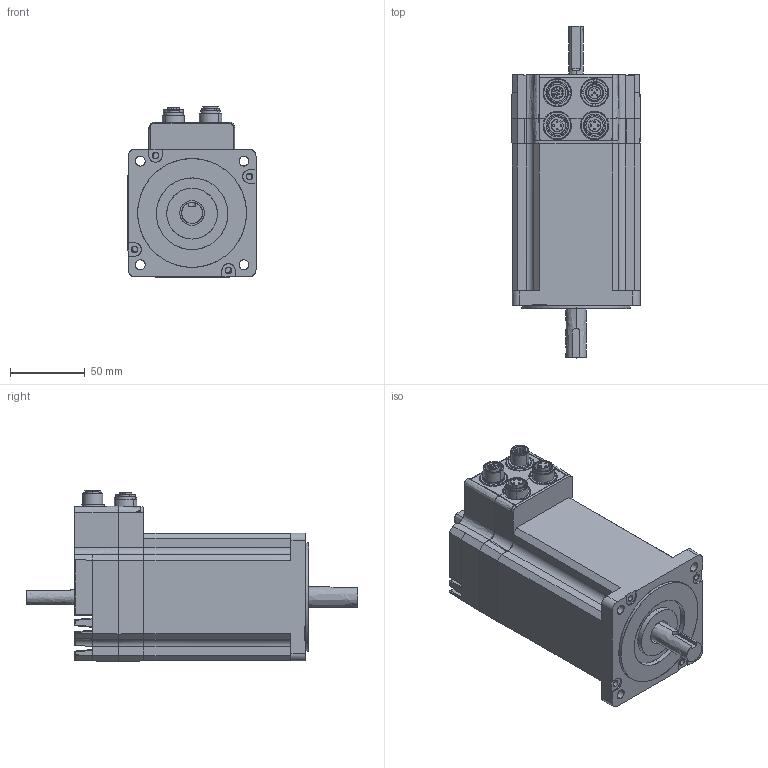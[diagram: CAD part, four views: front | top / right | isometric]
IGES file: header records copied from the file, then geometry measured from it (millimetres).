
Start section: Comment
Global section: file name: MIS342C15xxxx85.igs; native system:  By UGS Corp.; preprocessor: XPlus GENERIC/IGES 3.0; author: Author; organization: Title; date: 20130121.140356; units: millimetre
Bounding box: 86.45 x 222.7 x 114.56 mm (x, y, z)
Surface area: 132039 mm2 (no closed solid volume)
Topology: 0 solids, 0 shells, 1175 faces, 5749 edges, 5744 vertices
Faces by surface type: bspline 1175
